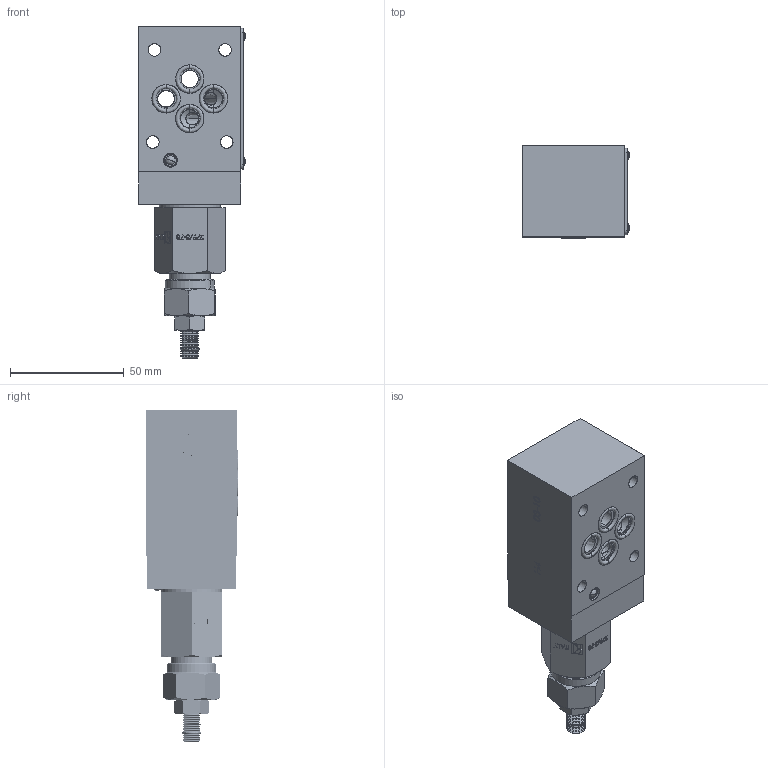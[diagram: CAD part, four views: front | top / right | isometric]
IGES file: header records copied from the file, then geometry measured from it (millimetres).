
Start section: SolidWorks IGES file using analytic representation for surfaces
Global section: file name: C:\Users\user\Desktop\FT379-3-P-03.IGS; native system: SolidWorks 2014; preprocessor: SolidWorks 2014; author: user; date: 140618.142646; units: millimetre
Bounding box: 46.96 x 40.38 x 145.91 mm (x, y, z)
Surface area: 53495.3 mm2 (no closed solid volume)
Topology: 0 solids, 0 shells, 2350 faces, 26223 edges, 26199 vertices
Faces by surface type: bspline 1649, revolution 701
